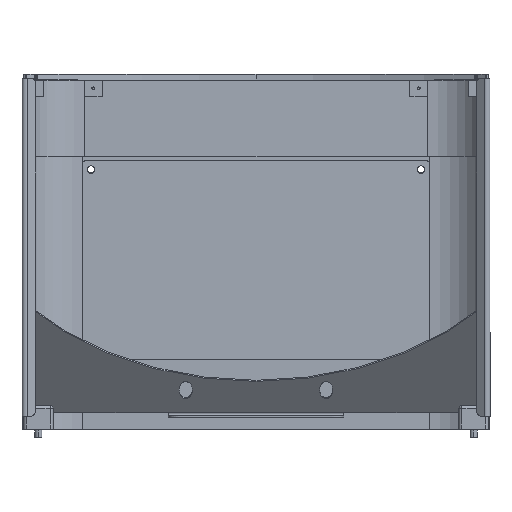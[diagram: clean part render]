
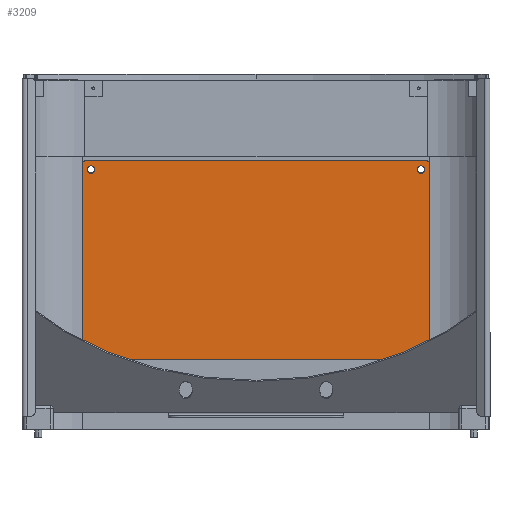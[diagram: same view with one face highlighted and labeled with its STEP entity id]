
A CAD part, top view. The second image highlights one B-rep face of the part: STEP entity #3209.
In plain terms, the highlighted planar face has unit normal (0, 0, 1) as drawn and (0, 0, -1) by its records, which use the part's own axes.
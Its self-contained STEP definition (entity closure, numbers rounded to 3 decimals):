
#73 = CARTESIAN_POINT ( 'NONE',  ( -77.5, -141., 0. ) ) ;
#477 = VERTEX_POINT ( 'NONE', #4653 ) ;
#515 = CIRCLE ( 'NONE', #2476, 3.15 ) ;
#564 = EDGE_CURVE ( 'NONE', #11379, #4837, #7212, .T. ) ;
#711 = DIRECTION ( 'NONE',  ( 1., 0., 0. ) ) ;
#763 = ORIENTED_EDGE ( 'NONE', *, *, #3578, .T. ) ;
#909 = ORIENTED_EDGE ( 'NONE', *, *, #564, .T. ) ;
#962 = CARTESIAN_POINT ( 'NONE',  ( -77.5, -141., 0. ) ) ;
#1168 = DIRECTION ( 'NONE',  ( 0., 1., 0. ) ) ;
#1231 = ORIENTED_EDGE ( 'NONE', *, *, #7523, .T. ) ;
#1240 = DIRECTION ( 'NONE',  ( 0., 0., 1. ) ) ;
#1318 = EDGE_CURVE ( 'NONE', #8703, #3656, #9343, .T. ) ;
#1365 = CARTESIAN_POINT ( 'NONE',  ( 77.5, -141., 0. ) ) ;
#1798 = AXIS2_PLACEMENT_3D ( 'NONE', #73, #1240, #6721 ) ;
#1841 = CARTESIAN_POINT ( 'NONE',  ( 77.5, 141., 0. ) ) ;
#1879 = AXIS2_PLACEMENT_3D ( 'NONE', #1841, #2646, #9210 ) ;
#1881 = CARTESIAN_POINT ( 'NONE',  ( 77.5, -141., 0. ) ) ;
#1920 = EDGE_CURVE ( 'NONE', #3420, #4837, #6413, .T. ) ;
#1946 = VERTEX_POINT ( 'NONE', #10827 ) ;
#1949 = AXIS2_PLACEMENT_3D ( 'NONE', #2945, #6707, #11173 ) ;
#1996 = EDGE_CURVE ( 'NONE', #3164, #1946, #11973, .T. ) ;
#2093 = VECTOR ( 'NONE', #6174, 1000. ) ;
#2114 = CARTESIAN_POINT ( 'NONE',  ( 83., -146., 0. ) ) ;
#2466 = CIRCLE ( 'NONE', #1879, 3.15 ) ;
#2476 = AXIS2_PLACEMENT_3D ( 'NONE', #1881, #9310, #8332 ) ;
#2551 = CARTESIAN_POINT ( 'NONE',  ( 74.35, 141., 0. ) ) ;
#2646 = DIRECTION ( 'NONE',  ( 0., 0., 1. ) ) ;
#2786 = EDGE_CURVE ( 'NONE', #11379, #10880, #3071, .T. ) ;
#2812 = DIRECTION ( 'NONE',  ( 0., 0., 1. ) ) ;
#2927 = CARTESIAN_POINT ( 'NONE',  ( 80.65, 141., 0. ) ) ;
#2945 = CARTESIAN_POINT ( 'NONE',  ( 0., 0., 0. ) ) ;
#3003 = FACE_BOUND ( 'NONE', #6344, .T. ) ;
#3022 = ORIENTED_EDGE ( 'NONE', *, *, #2786, .F. ) ;
#3038 = CARTESIAN_POINT ( 'NONE',  ( 85., 146., 0. ) ) ;
#3071 = LINE ( 'NONE', #7502, #7056 ) ;
#3164 = VERTEX_POINT ( 'NONE', #11835 ) ;
#3166 = DIRECTION ( 'NONE',  ( 0., 0., -1. ) ) ;
#3209 = ADVANCED_FACE ( 'NONE', ( #3003, #6764, #9582, #8412, #7608 ), #11347, .F. ) ;
#3211 = CARTESIAN_POINT ( 'NONE',  ( -85., -146., 0. ) ) ;
#3266 = LINE ( 'NONE', #4063, #2093 ) ;
#3271 = CIRCLE ( 'NONE', #6630, 3.15 ) ;
#3385 = CARTESIAN_POINT ( 'NONE',  ( -85., 148., 0. ) ) ;
#3420 = VERTEX_POINT ( 'NONE', #10630 ) ;
#3429 = VERTEX_POINT ( 'NONE', #4394 ) ;
#3578 = EDGE_CURVE ( 'NONE', #11592, #5868, #10399, .T. ) ;
#3586 = VERTEX_POINT ( 'NONE', #10302 ) ;
#3656 = VERTEX_POINT ( 'NONE', #2927 ) ;
#3714 = DIRECTION ( 'NONE',  ( 0., 0., 1. ) ) ;
#3731 = CIRCLE ( 'NONE', #6693, 3.15 ) ;
#3869 = CARTESIAN_POINT ( 'NONE',  ( -83., -146., 0. ) ) ;
#3946 = ORIENTED_EDGE ( 'NONE', *, *, #7952, .F. ) ;
#4063 = CARTESIAN_POINT ( 'NONE',  ( -85., 148., 0. ) ) ;
#4320 = VERTEX_POINT ( 'NONE', #3211 ) ;
#4321 = CARTESIAN_POINT ( 'NONE',  ( -77.5, 141., 0. ) ) ;
#4368 = DIRECTION ( 'NONE',  ( 1., 0., 0. ) ) ;
#4394 = CARTESIAN_POINT ( 'NONE',  ( -85., 146., 0. ) ) ;
#4653 = CARTESIAN_POINT ( 'NONE',  ( 74.35, -141., 0. ) ) ;
#4837 = VERTEX_POINT ( 'NONE', #10614 ) ;
#4944 = DIRECTION ( 'NONE',  ( 0., 0., -1. ) ) ;
#4968 = CIRCLE ( 'NONE', #10063, 2. ) ;
#5189 = ORIENTED_EDGE ( 'NONE', *, *, #9348, .T. ) ;
#5306 = CARTESIAN_POINT ( 'NONE',  ( -80.65, -141., 0. ) ) ;
#5544 = CIRCLE ( 'NONE', #7094, 2. ) ;
#5728 = CIRCLE ( 'NONE', #1798, 3.15 ) ;
#5868 = VERTEX_POINT ( 'NONE', #6378 ) ;
#5873 = ORIENTED_EDGE ( 'NONE', *, *, #10087, .T. ) ;
#6114 = AXIS2_PLACEMENT_3D ( 'NONE', #1365, #6969, #4368 ) ;
#6174 = DIRECTION ( 'NONE',  ( 0., -1., 0. ) ) ;
#6250 = DIRECTION ( 'NONE',  ( 1., 0., 0. ) ) ;
#6344 = EDGE_LOOP ( 'NONE', ( #6496, #7461 ) ) ;
#6378 = CARTESIAN_POINT ( 'NONE',  ( -74.35, -141., 0. ) ) ;
#6413 = LINE ( 'NONE', #11732, #10545 ) ;
#6496 = ORIENTED_EDGE ( 'NONE', *, *, #9097, .T. ) ;
#6582 = CARTESIAN_POINT ( 'NONE',  ( 85., -146., 0. ) ) ;
#6630 = AXIS2_PLACEMENT_3D ( 'NONE', #4321, #9986, #6250 ) ;
#6693 = AXIS2_PLACEMENT_3D ( 'NONE', #8021, #8990, #11753 ) ;
#6707 = DIRECTION ( 'NONE',  ( 0., 0., 1. ) ) ;
#6714 = CARTESIAN_POINT ( 'NONE',  ( 83., 146., 0. ) ) ;
#6721 = DIRECTION ( 'NONE',  ( 1., 0., 0. ) ) ;
#6735 = VERTEX_POINT ( 'NONE', #7778 ) ;
#6764 = FACE_BOUND ( 'NONE', #9288, .T. ) ;
#6876 = EDGE_CURVE ( 'NONE', #3656, #8703, #2466, .T. ) ;
#6882 = VERTEX_POINT ( 'NONE', #11234 ) ;
#6969 = DIRECTION ( 'NONE',  ( 0., 0., 1. ) ) ;
#7019 = AXIS2_PLACEMENT_3D ( 'NONE', #2114, #11628, #10663 ) ;
#7056 = VECTOR ( 'NONE', #1168, 1000. ) ;
#7094 = AXIS2_PLACEMENT_3D ( 'NONE', #3869, #4944, #8539 ) ;
#7141 = DIRECTION ( 'NONE',  ( -1., 0., 0. ) ) ;
#7163 = EDGE_CURVE ( 'NONE', #477, #6735, #515, .T. ) ;
#7212 = CIRCLE ( 'NONE', #7019, 2. ) ;
#7386 = ORIENTED_EDGE ( 'NONE', *, *, #10136, .T. ) ;
#7461 = ORIENTED_EDGE ( 'NONE', *, *, #7163, .T. ) ;
#7502 = CARTESIAN_POINT ( 'NONE',  ( 85., 148., 0. ) ) ;
#7523 = EDGE_CURVE ( 'NONE', #3586, #6882, #3271, .T. ) ;
#7608 = FACE_OUTER_BOUND ( 'NONE', #7921, .T. ) ;
#7631 = ORIENTED_EDGE ( 'NONE', *, *, #9375, .T. ) ;
#7653 = DIRECTION ( 'NONE',  ( 1., 0., 0. ) ) ;
#7693 = AXIS2_PLACEMENT_3D ( 'NONE', #6714, #8124, #11855 ) ;
#7778 = CARTESIAN_POINT ( 'NONE',  ( 80.65, -141., 0. ) ) ;
#7921 = EDGE_LOOP ( 'NONE', ( #3022, #909, #9446, #5189, #3946, #5873, #10274, #7386 ) ) ;
#7952 = EDGE_CURVE ( 'NONE', #3429, #4320, #3266, .T. ) ;
#8021 = CARTESIAN_POINT ( 'NONE',  ( -77.5, 141., 0. ) ) ;
#8113 = DIRECTION ( 'NONE',  ( 1., 0., 0. ) ) ;
#8124 = DIRECTION ( 'NONE',  ( 0., 0., -1. ) ) ;
#8249 = CIRCLE ( 'NONE', #6114, 3.15 ) ;
#8320 = EDGE_LOOP ( 'NONE', ( #11658, #10465 ) ) ;
#8332 = DIRECTION ( 'NONE',  ( 1., 0., 0. ) ) ;
#8412 = FACE_BOUND ( 'NONE', #8320, .T. ) ;
#8524 = EDGE_LOOP ( 'NONE', ( #7631, #763 ) ) ;
#8539 = DIRECTION ( 'NONE',  ( 1., 0., 0. ) ) ;
#8703 = VERTEX_POINT ( 'NONE', #2551 ) ;
#8990 = DIRECTION ( 'NONE',  ( 0., 0., 1. ) ) ;
#9097 = EDGE_CURVE ( 'NONE', #6735, #477, #8249, .T. ) ;
#9210 = DIRECTION ( 'NONE',  ( 1., 0., 0. ) ) ;
#9288 = EDGE_LOOP ( 'NONE', ( #1231, #9505 ) ) ;
#9310 = DIRECTION ( 'NONE',  ( 0., 0., 1. ) ) ;
#9343 = CIRCLE ( 'NONE', #11302, 3.15 ) ;
#9348 = EDGE_CURVE ( 'NONE', #3420, #4320, #5544, .T. ) ;
#9375 = EDGE_CURVE ( 'NONE', #5868, #11592, #5728, .T. ) ;
#9446 = ORIENTED_EDGE ( 'NONE', *, *, #1920, .F. ) ;
#9505 = ORIENTED_EDGE ( 'NONE', *, *, #11088, .T. ) ;
#9582 = FACE_BOUND ( 'NONE', #8524, .T. ) ;
#9986 = DIRECTION ( 'NONE',  ( 0., 0., 1. ) ) ;
#10063 = AXIS2_PLACEMENT_3D ( 'NONE', #11565, #3166, #10664 ) ;
#10087 = EDGE_CURVE ( 'NONE', #3429, #1946, #4968, .T. ) ;
#10136 = EDGE_CURVE ( 'NONE', #3164, #10880, #11409, .T. ) ;
#10254 = CARTESIAN_POINT ( 'NONE',  ( 77.5, 141., 0. ) ) ;
#10274 = ORIENTED_EDGE ( 'NONE', *, *, #1996, .F. ) ;
#10302 = CARTESIAN_POINT ( 'NONE',  ( -74.35, 141., 0. ) ) ;
#10399 = CIRCLE ( 'NONE', #10590, 3.15 ) ;
#10465 = ORIENTED_EDGE ( 'NONE', *, *, #1318, .T. ) ;
#10545 = VECTOR ( 'NONE', #8113, 1000. ) ;
#10590 = AXIS2_PLACEMENT_3D ( 'NONE', #962, #3714, #711 ) ;
#10614 = CARTESIAN_POINT ( 'NONE',  ( 83., -148., 0. ) ) ;
#10630 = CARTESIAN_POINT ( 'NONE',  ( -83., -148., 0. ) ) ;
#10663 = DIRECTION ( 'NONE',  ( 1., 0., 0. ) ) ;
#10664 = DIRECTION ( 'NONE',  ( 1., 0., 0. ) ) ;
#10827 = CARTESIAN_POINT ( 'NONE',  ( -83., 148., 0. ) ) ;
#10880 = VERTEX_POINT ( 'NONE', #3038 ) ;
#11088 = EDGE_CURVE ( 'NONE', #6882, #3586, #3731, .T. ) ;
#11173 = DIRECTION ( 'NONE',  ( 1., 0., 0. ) ) ;
#11234 = CARTESIAN_POINT ( 'NONE',  ( -80.65, 141., 0. ) ) ;
#11302 = AXIS2_PLACEMENT_3D ( 'NONE', #10254, #2812, #7653 ) ;
#11347 = PLANE ( 'NONE',  #1949 ) ;
#11379 = VERTEX_POINT ( 'NONE', #6582 ) ;
#11409 = CIRCLE ( 'NONE', #7693, 2. ) ;
#11565 = CARTESIAN_POINT ( 'NONE',  ( -83., 146., 0. ) ) ;
#11592 = VERTEX_POINT ( 'NONE', #5306 ) ;
#11628 = DIRECTION ( 'NONE',  ( 0., 0., -1. ) ) ;
#11658 = ORIENTED_EDGE ( 'NONE', *, *, #6876, .T. ) ;
#11732 = CARTESIAN_POINT ( 'NONE',  ( -85., -148., 0. ) ) ;
#11753 = DIRECTION ( 'NONE',  ( 1., 0., 0. ) ) ;
#11835 = CARTESIAN_POINT ( 'NONE',  ( 83., 148., 0. ) ) ;
#11855 = DIRECTION ( 'NONE',  ( 1., 0., 0. ) ) ;
#11973 = LINE ( 'NONE', #3385, #12098 ) ;
#12098 = VECTOR ( 'NONE', #7141, 1000. ) ;
